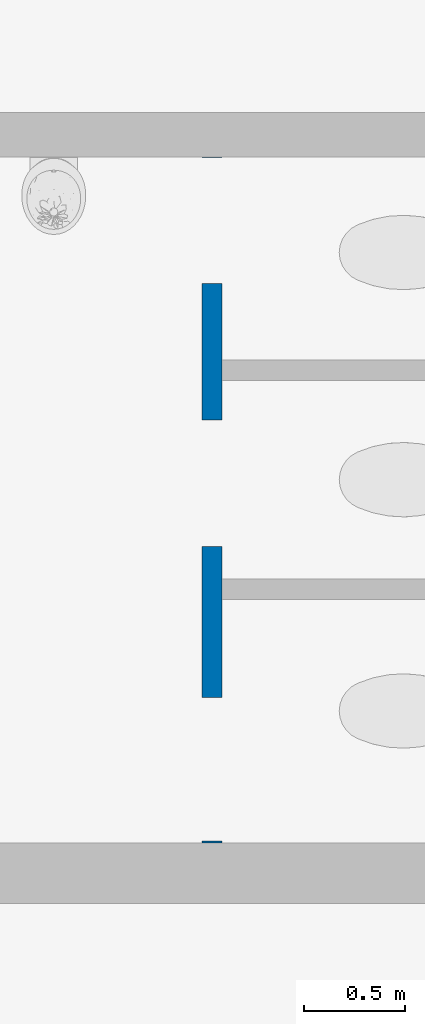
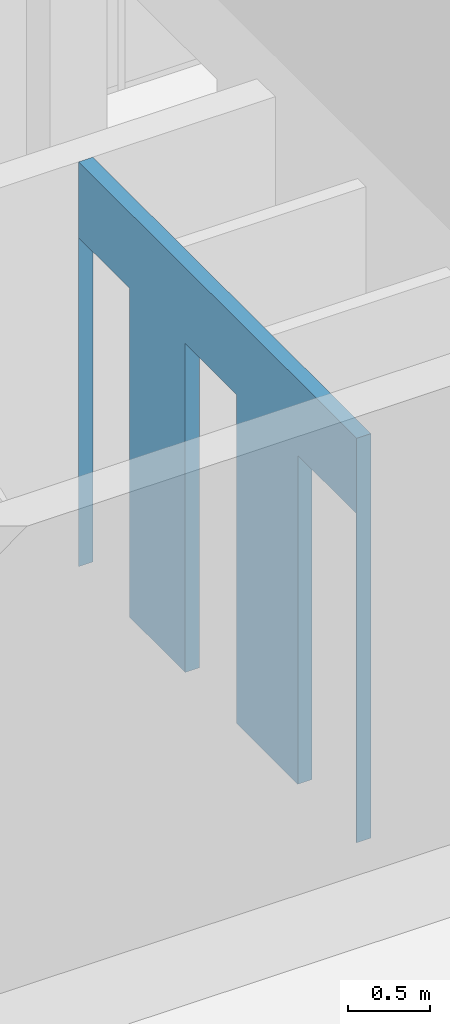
# One storey, part 83 of 117: 1 wall, 3 openings.
"""IFC4 building model written with IfcOpenShell, lengths in metres."""

from ifc_helpers import new_model, entity, si_unit, converted_unit, derived_unit, direction, frame, origin, place, context, subcontext, project, spatial, indexed_curve, outline, extrude, polygons, material, type_object, element, save


model = new_model("IFC4")

# Units and contexts
model_context = context("Model", 3, precision=1e-05, world=origin(), true_north=direction((6.123031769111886e-17, 1.0)))
body_context = subcontext(model_context, "Body", "Model", "MODEL_VIEW")
ifc_project = project(units=[si_unit("LENGTHUNIT", "METRE"), si_unit("AREAUNIT", "SQUARE_METRE"), si_unit("VOLUMEUNIT", "CUBIC_METRE"), converted_unit("PLANEANGLEUNIT", "DEGREE", entity("IfcRatioMeasure", 0.017453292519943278), si_unit("PLANEANGLEUNIT", "RADIAN"), dimensions=[0, 0, 0, 0, 0, 0, 0]), si_unit("MASSUNIT", "GRAM", prefix="KILO"), derived_unit("MASSDENSITYUNIT", [(si_unit("MASSUNIT", "GRAM", prefix="KILO"), 1), (si_unit("LENGTHUNIT", "METRE"), -3)]), derived_unit("MOMENTOFINERTIAUNIT", [(si_unit("LENGTHUNIT", "METRE"), 4)]), si_unit("TIMEUNIT", "SECOND"), si_unit("FREQUENCYUNIT", "HERTZ"), si_unit("THERMODYNAMICTEMPERATUREUNIT", "DEGREE_CELSIUS"), derived_unit("THERMALTRANSMITTANCEUNIT", [(si_unit("MASSUNIT", "GRAM", prefix="KILO"), 1), (si_unit("THERMODYNAMICTEMPERATUREUNIT", "KELVIN"), -1), (si_unit("TIMEUNIT", "SECOND"), -3)]), derived_unit("VOLUMETRICFLOWRATEUNIT", [(si_unit("LENGTHUNIT", "METRE"), 3), (si_unit("TIMEUNIT", "SECOND"), -1)]), derived_unit("MASSFLOWRATEUNIT", [(si_unit("MASSUNIT", "GRAM", prefix="KILO"), 1), (si_unit("TIMEUNIT", "SECOND"), -1)]), derived_unit("ROTATIONALFREQUENCYUNIT", [(si_unit("TIMEUNIT", "SECOND"), -1)]), si_unit("ELECTRICCURRENTUNIT", "AMPERE"), si_unit("ELECTRICVOLTAGEUNIT", "VOLT"), si_unit("POWERUNIT", "WATT"), si_unit("FORCEUNIT", "NEWTON", prefix="KILO"), si_unit("ILLUMINANCEUNIT", "LUX"), si_unit("LUMINOUSFLUXUNIT", "LUMEN"), si_unit("LUMINOUSINTENSITYUNIT", "CANDELA"), derived_unit("USERDEFINED", [(si_unit("MASSUNIT", "GRAM", prefix="KILO"), -1), (si_unit("LENGTHUNIT", "METRE"), -2), (si_unit("TIMEUNIT", "SECOND"), 3), (si_unit("LUMINOUSFLUXUNIT", "LUMEN"), 1)]), derived_unit("SOUNDPOWERUNIT", [(si_unit("MASSUNIT", "GRAM", prefix="KILO"), 1), (si_unit("LENGTHUNIT", "METRE"), 2), (si_unit("TIMEUNIT", "SECOND"), -3)]), derived_unit("SOUNDPRESSUREUNIT", [(si_unit("MASSUNIT", "GRAM", prefix="KILO"), 1), (si_unit("LENGTHUNIT", "METRE"), -1), (si_unit("TIMEUNIT", "SECOND"), -2)]), derived_unit("LINEARVELOCITYUNIT", [(si_unit("LENGTHUNIT", "METRE"), 1), (si_unit("TIMEUNIT", "SECOND"), -1)]), si_unit("PRESSUREUNIT", "PASCAL"), derived_unit("USERDEFINED", [(si_unit("LENGTHUNIT", "METRE"), -2), (si_unit("MASSUNIT", "GRAM", prefix="KILO"), 1), (si_unit("TIMEUNIT", "SECOND"), -2)]), derived_unit("LINEARFORCEUNIT", [(si_unit("MASSUNIT", "GRAM", prefix="KILO"), 1), (si_unit("LENGTHUNIT", "METRE"), 1), (si_unit("TIMEUNIT", "SECOND"), -2), (si_unit("LENGTHUNIT", "METRE"), -1)]), derived_unit("PLANARFORCEUNIT", [(si_unit("MASSUNIT", "GRAM", prefix="KILO"), 1), (si_unit("LENGTHUNIT", "METRE"), 1), (si_unit("TIMEUNIT", "SECOND"), -2), (si_unit("LENGTHUNIT", "METRE"), -2)])], contexts=[model_context])

# Site, building, storey
site_placement = place(None, origin())
site = spatial("IfcSite", under=ifc_project, at=site_placement, Name="Superficie", CompositionType="ELEMENT")
building_placement = place(site_placement, origin())
building = spatial("IfcBuilding", under=site, at=building_placement, CompositionType="ELEMENT")
storey_placement = place(building_placement, origin())
storey = spatial("IfcBuildingStorey", under=building, at=storey_placement, Name="Nivel 0", CompositionType="ELEMENT", Elevation=0.0)

# Wall, openings
ifc_material = material(Name="Muro por defecto", Category="Varios")
wall_type = type_object("IfcWallType", Name="Muro básico:Por defecto - 10 cm", PredefinedType="STANDARD")
wall_placement = place(storey_placement, frame((-24.37320098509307, -5.94417071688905, 0.0), z_axis=(0.0, 0.0, 1.0), x_axis=(0.0, -1.0, 0.0)))
wall = element("IfcWall", 1, at=wall_placement, inside=storey, type_object=wall_type, material=ifc_material, Name="Muro básico:Por defecto - 10 cm", ObjectType="Muro básico:Por defecto - 10 cm", PredefinedType="NOTDEFINED", context=body_context, shape_type="Tessellation", body=[
    polygons([(3.3799999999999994, -0.049999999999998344, 0.0), (3.3799999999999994, -0.049999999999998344, 2.9999999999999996), (0.0, -0.049999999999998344, 2.9999999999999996), (0.0, -0.049999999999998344, 0.0), (0.0029541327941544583, -0.04999999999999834, 0.0), (0.0029541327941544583, -0.04999999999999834, 2.4384), (0.6220665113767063, -0.04999999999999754, 2.4384), (0.6220665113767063, -0.04999999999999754, 0.0), (1.2963365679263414, -0.04999999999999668, 0.0), (1.2963365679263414, -0.04999999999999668, 2.4384), (1.9198212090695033, -0.05000000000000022, 2.4384), (1.9198212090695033, -0.05000000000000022, 0.0), (2.663864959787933, -0.04999999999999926, 0.0), (2.663864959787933, -0.04999999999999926, 2.4384), (3.371389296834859, -0.04999999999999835, 2.4384), (3.371389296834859, -0.04999999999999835, 0.0), (3.379999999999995, 0.05000000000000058, 2.9999999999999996), (3.3799999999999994, 0.05000000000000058, 0.0), (3.371389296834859, 0.05000000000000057, 0.0), (3.371389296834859, 0.05000000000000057, 2.4384), (2.663864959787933, 0.04999999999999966, 2.4384), (2.663864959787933, 0.04999999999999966, 0.0), (2.1799999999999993, 0.049999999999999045, 0.0), (2.079999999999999, 0.04999999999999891, 0.0), (1.9198212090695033, 0.04999999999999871, 0.0), (1.9198212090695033, 0.04999999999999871, 2.4384), (1.2963365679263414, 0.050000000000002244, 2.4384), (1.2963365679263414, 0.050000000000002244, 0.0), (1.1, 0.050000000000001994, 0.0), (1.0, 0.05000000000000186, 0.0), (0.6220665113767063, 0.050000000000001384, 0.0), (0.6220665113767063, 0.050000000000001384, 2.4384), (0.0029541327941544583, 0.050000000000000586, 2.4384), (0.0029541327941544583, 0.050000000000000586, 0.0), (0.0, 0.05000000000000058, 0.0), (0.0, 0.05000000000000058, 2.9999999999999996), (1.0, 0.05000000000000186, 2.9999999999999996), (1.1, 0.050000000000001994, 2.9999999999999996), (2.079999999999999, 0.04999999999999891, 2.9999999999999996), (2.1799999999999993, 0.049999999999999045, 2.9999999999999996)], [[[1, 2, 3, 4, 5, 6, 7, 8, 9, 10, 11, 12, 13, 14, 15, 16]], [[17, 18, 19, 20, 21, 22, 23, 24, 25, 26, 27, 28, 29, 30, 31, 32, 33, 34, 35, 36, 37, 38, 39, 40]], [[4, 35, 34, 5]], [[4, 3, 36, 35]], [[2, 1, 18, 17]], [[3, 2, 17, 40, 39, 38, 37, 36]], [[14, 21, 20, 15]], [[21, 14, 13, 22]], [[15, 20, 19, 16]], [[10, 27, 26, 11]], [[27, 10, 9, 28]], [[11, 26, 25, 12]], [[6, 33, 32, 7]], [[33, 6, 5, 34]], [[7, 32, 31, 8]], [[28, 9, 8, 31, 30, 29]], [[22, 13, 12, 25, 24, 23]], [[18, 1, 16, 19]]], closed=True),
])
opening_1_placement = place(wall_placement, origin())
element("IfcOpeningElement", 2, at=opening_1_placement, cuts=wall, Name="Muro básico:Por defecto - 10 cm", PredefinedType="OPENING", context=body_context, shape_type="SweptSolid", body=[
    extrude(outline(indexed_curve([(-1.2192, -0.3537621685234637), (1.2192, -0.3537621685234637), (1.2192, 0.35376216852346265), (-1.2192, 0.35376216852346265), (-1.2192, -0.3537621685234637)], self_intersect=False)), frame((3.0176271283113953, -0.05000000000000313, 1.2192), z_axis=(0.0, 1.0, 0.0), x_axis=(0.0, 0.0, -1.0)), (0.0, 0.0, 1.0), 0.10000000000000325),
])
opening_2_placement = place(wall_placement, origin())
element("IfcOpeningElement", 3, at=opening_2_placement, cuts=wall, Name="Muro básico:Por defecto - 10 cm", PredefinedType="OPENING", context=body_context, shape_type="SweptSolid", body=[
    extrude(outline(indexed_curve([(-1.2192, -0.3117423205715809), (1.2192, -0.3117423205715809), (1.2192, 0.3117423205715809), (-1.2192, 0.3117423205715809), (-1.2192, -0.3117423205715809)], self_intersect=False)), frame((1.6080788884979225, -0.05000000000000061, 1.2192), z_axis=(0.0, 1.0, 0.0), x_axis=(0.0, 0.0, -1.0)), (0.0, 0.0, 1.0), 0.10000000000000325),
])
opening_3_placement = place(wall_placement, origin())
element("IfcOpeningElement", 4, at=opening_3_placement, cuts=wall, Name="Muro básico:Por defecto - 10 cm", PredefinedType="OPENING", context=body_context, shape_type="SweptSolid", body=[
    extrude(outline(indexed_curve([(-1.2192, -0.30955618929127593), (1.2192, -0.30955618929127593), (1.2192, 0.30955618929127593), (-1.2192, 0.30955618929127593), (-1.2192, -0.30955618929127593)], self_intersect=False)), frame((0.3125103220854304, -0.05000000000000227, 1.2192), z_axis=(0.0, 1.0, 0.0), x_axis=(0.0, 0.0, -1.0)), (0.0, 0.0, 1.0), 0.10000000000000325),
])

save(model, "model.ifc")
